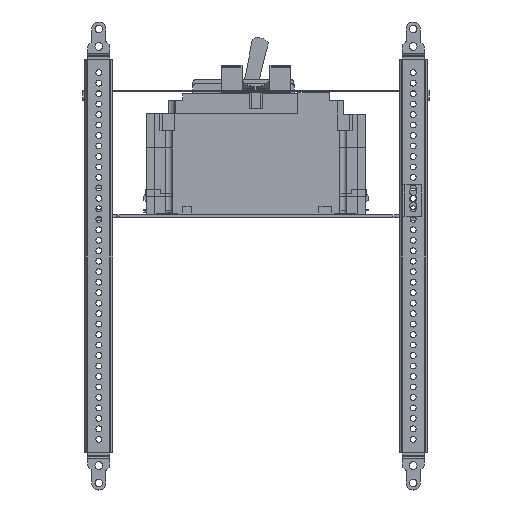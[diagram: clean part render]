
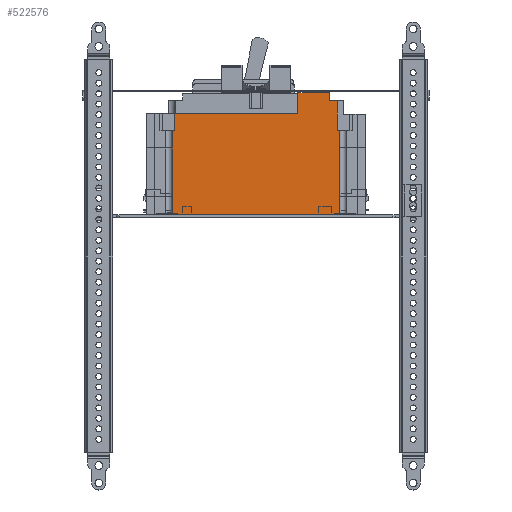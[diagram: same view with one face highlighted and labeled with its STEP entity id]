
A CAD part, left-side view. The second image highlights one B-rep face of the part: STEP entity #522576.
In plain terms, the highlighted planar face has unit normal (-1, 0, 0).
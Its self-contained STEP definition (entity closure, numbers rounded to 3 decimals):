
#510636=CARTESIAN_POINT(' ',(-266.811,-53.186,-65.147));
#510637=VERTEX_POINT(' ',#510636);
#510651=CARTESIAN_POINT(' ',(-266.811,-53.186,-65.147));
#510656=DIRECTION(' ',(0.,1.,0.));
#510661=VECTOR(' ',#510656,1.);
#510666=LINE('',#510651,#510661);
#510671=CARTESIAN_POINT(' ',(-266.811,59.234,-65.147));
#510672=VERTEX_POINT(' ',#510671);
#510676=EDGE_CURVE(' ',#510637,#510672,#510666,.T.);
#514046=CARTESIAN_POINT(' ',(-266.811,61.034,6.704));
#514047=VERTEX_POINT(' ',#514046);
#514061=CARTESIAN_POINT(' ',(-266.811,-26.993,6.704));
#514066=DIRECTION(' ',(0.,1.,0.));
#514071=VECTOR(' ',#514066,1.);
#514076=LINE('',#514061,#514071);
#514081=CARTESIAN_POINT(' ',(-266.811,-26.993,6.704));
#514082=VERTEX_POINT(' ',#514081);
#514086=EDGE_CURVE(' ',#514082,#514047,#514076,.T.);
#521991=CARTESIAN_POINT(' ',(-266.811,-53.186,-65.147));
#521996=DIRECTION(' ',(0.,0.,1.));
#522001=VECTOR(' ',#521996,1.);
#522006=LINE('',#521991,#522001);
#522011=CARTESIAN_POINT(' ',(-266.811,-53.186,-64.647));
#522012=VERTEX_POINT(' ',#522011);
#522016=EDGE_CURVE(' ',#510637,#522012,#522006,.T.);
#522081=DIRECTION(' ',(-1.,0.,0.));
#522086=CARTESIAN_POINT(' ',(-266.811,-56.888,-65.147));
#522091=DIRECTION(' ',(0.,-0.,1.));
#522096=AXIS2_PLACEMENT_3D(' ',#522086,#522081,#522091);
#522101=PLANE('NONE',#522096);
#522106=CARTESIAN_POINT(' ',(-266.811,-56.888,-5.216));
#522111=DIRECTION(' ',(0.,0.,-1.));
#522116=VECTOR(' ',#522111,1.);
#522121=LINE('',#522106,#522116);
#522126=CARTESIAN_POINT(' ',(-266.811,-56.888,-5.216));
#522127=VERTEX_POINT(' ',#522126);
#522131=CARTESIAN_POINT(' ',(-266.811,-56.888,-64.647));
#522132=VERTEX_POINT(' ',#522131);
#522136=EDGE_CURVE(' ',#522127,#522132,#522121,.T.);
#522141=ORIENTED_EDGE(' ',*,*,#522136,.F.);
#522146=CARTESIAN_POINT(' ',(-266.811,-54.988,-5.216));
#522151=DIRECTION(' ',(0.,-1.,0.));
#522156=VECTOR(' ',#522151,1.);
#522161=LINE('',#522146,#522156);
#522166=CARTESIAN_POINT(' ',(-266.811,-54.988,-5.216));
#522167=VERTEX_POINT(' ',#522166);
#522171=EDGE_CURVE(' ',#522167,#522127,#522161,.T.);
#522176=ORIENTED_EDGE(' ',*,*,#522171,.F.);
#522181=CARTESIAN_POINT(' ',(-266.811,-54.988,15.994));
#522186=DIRECTION(' ',(0.,0.,-1.));
#522191=VECTOR(' ',#522186,1.);
#522196=LINE('',#522181,#522191);
#522201=CARTESIAN_POINT(' ',(-266.811,-54.988,15.994));
#522202=VERTEX_POINT(' ',#522201);
#522206=EDGE_CURVE(' ',#522202,#522167,#522196,.T.);
#522211=ORIENTED_EDGE(' ',*,*,#522206,.F.);
#522216=CARTESIAN_POINT(' ',(-266.811,-49.491,15.994));
#522221=DIRECTION(' ',(0.,-1.,0.));
#522226=VECTOR(' ',#522221,1.);
#522231=LINE('',#522216,#522226);
#522236=CARTESIAN_POINT(' ',(-266.811,-49.491,15.994));
#522237=VERTEX_POINT(' ',#522236);
#522241=EDGE_CURVE(' ',#522237,#522202,#522231,.T.);
#522246=ORIENTED_EDGE(' ',*,*,#522241,.F.);
#522251=CARTESIAN_POINT(' ',(-266.811,-49.491,21.844));
#522256=DIRECTION(' ',(0.,0.,-1.));
#522261=VECTOR(' ',#522256,1.);
#522266=LINE('',#522251,#522261);
#522271=CARTESIAN_POINT(' ',(-266.811,-49.491,21.844));
#522272=VERTEX_POINT(' ',#522271);
#522276=EDGE_CURVE(' ',#522272,#522237,#522266,.T.);
#522281=ORIENTED_EDGE(' ',*,*,#522276,.F.);
#522286=CARTESIAN_POINT(' ',(-266.811,-26.993,21.844));
#522291=DIRECTION(' ',(0.,-1.,0.));
#522296=VECTOR(' ',#522291,1.);
#522301=LINE('',#522286,#522296);
#522306=CARTESIAN_POINT(' ',(-266.811,-26.993,21.844));
#522307=VERTEX_POINT(' ',#522306);
#522311=EDGE_CURVE(' ',#522307,#522272,#522301,.T.);
#522316=ORIENTED_EDGE(' ',*,*,#522311,.F.);
#522321=CARTESIAN_POINT(' ',(-266.811,-26.993,21.844));
#522326=DIRECTION(' ',(0.,0.,-1.));
#522331=VECTOR(' ',#522326,1.);
#522336=LINE('',#522321,#522331);
#522341=EDGE_CURVE(' ',#522307,#514082,#522336,.T.);
#522346=ORIENTED_EDGE(' ',*,*,#522341,.T.);
#522351=ORIENTED_EDGE(' ',*,*,#514086,.T.);
#522356=CARTESIAN_POINT(' ',(-266.811,61.034,6.704));
#522361=DIRECTION(' ',(0.,0.,-1.));
#522366=VECTOR(' ',#522361,1.);
#522371=LINE('',#522356,#522366);
#522376=CARTESIAN_POINT(' ',(-266.811,61.034,-5.596));
#522377=VERTEX_POINT(' ',#522376);
#522381=EDGE_CURVE(' ',#514047,#522377,#522371,.T.);
#522386=ORIENTED_EDGE(' ',*,*,#522381,.T.);
#522391=CARTESIAN_POINT(' ',(-266.811,61.034,-5.596));
#522396=DIRECTION(' ',(0.,1.,0.));
#522401=VECTOR(' ',#522396,1.);
#522406=LINE('',#522391,#522401);
#522411=CARTESIAN_POINT(' ',(-266.811,62.936,-5.596));
#522412=VERTEX_POINT(' ',#522411);
#522416=EDGE_CURVE(' ',#522377,#522412,#522406,.T.);
#522421=ORIENTED_EDGE(' ',*,*,#522416,.T.);
#522426=CARTESIAN_POINT(' ',(-266.811,62.936,-64.647));
#522431=DIRECTION(' ',(0.,0.,1.));
#522436=VECTOR(' ',#522431,1.);
#522441=LINE('',#522426,#522436);
#522446=CARTESIAN_POINT(' ',(-266.811,62.936,-64.647));
#522447=VERTEX_POINT(' ',#522446);
#522451=EDGE_CURVE(' ',#522447,#522412,#522441,.T.);
#522456=ORIENTED_EDGE(' ',*,*,#522451,.F.);
#522461=CARTESIAN_POINT(' ',(-266.811,62.936,-64.647));
#522466=DIRECTION(' ',(0.,-1.,0.));
#522471=VECTOR(' ',#522466,1.);
#522476=LINE('',#522461,#522471);
#522481=CARTESIAN_POINT(' ',(-266.811,59.234,-64.647));
#522482=VERTEX_POINT(' ',#522481);
#522486=EDGE_CURVE(' ',#522447,#522482,#522476,.T.);
#522491=ORIENTED_EDGE(' ',*,*,#522486,.T.);
#522496=CARTESIAN_POINT(' ',(-266.811,59.234,-65.147));
#522501=DIRECTION(' ',(0.,0.,1.));
#522506=VECTOR(' ',#522501,1.);
#522511=LINE('',#522496,#522506);
#522516=EDGE_CURVE(' ',#510672,#522482,#522511,.T.);
#522521=ORIENTED_EDGE(' ',*,*,#522516,.F.);
#522526=ORIENTED_EDGE(' ',*,*,#510676,.F.);
#522531=ORIENTED_EDGE(' ',*,*,#522016,.T.);
#522536=CARTESIAN_POINT(' ',(-266.811,-56.888,-64.647));
#522541=DIRECTION(' ',(0.,1.,0.));
#522546=VECTOR(' ',#522541,1.);
#522551=LINE('',#522536,#522546);
#522556=EDGE_CURVE(' ',#522132,#522012,#522551,.T.);
#522561=ORIENTED_EDGE(' ',*,*,#522556,.F.);
#522566=EDGE_LOOP(' ',(#522141,#522176,#522211,#522246,#522281,#522316,#522346,#522351,#522386,#522421,#522456,#522491,#522521,#522526,#522531,#522561));
#522571=FACE_OUTER_BOUND(' ',#522566,.T.);
#522576=ADVANCED_FACE('NONE',(#522571),#522101,.T.);
